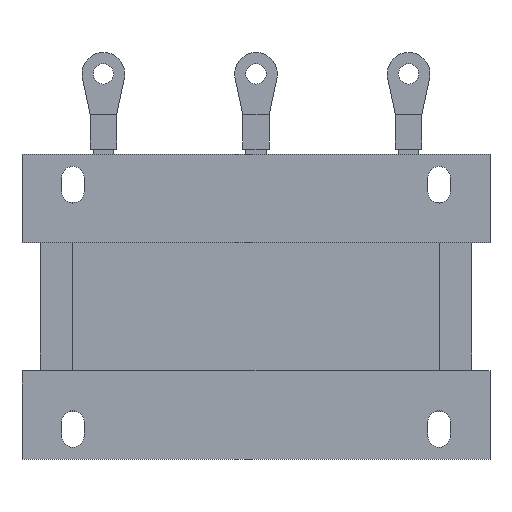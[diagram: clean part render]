
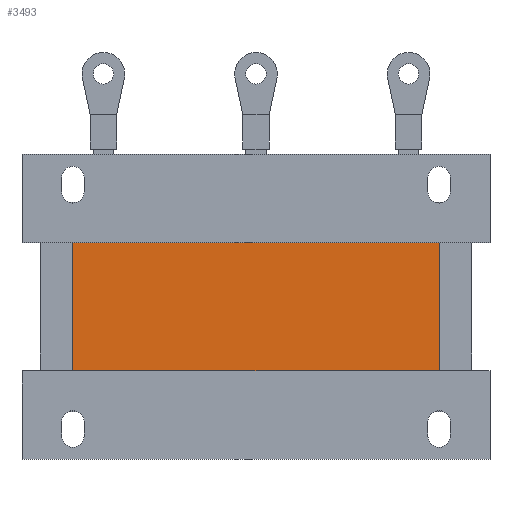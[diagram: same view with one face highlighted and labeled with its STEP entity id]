
A CAD part, front view. The second image highlights one B-rep face of the part: STEP entity #3493.
In plain terms, the highlighted planar face has unit normal (0, -1, 0).
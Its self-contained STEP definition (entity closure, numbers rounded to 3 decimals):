
#123=PLANE('',#3776);
#305=FACE_OUTER_BOUND('',#515,.T.);
#515=EDGE_LOOP('',(#2919,#2920,#2921,#2922));
#715=LINE('',#5093,#1149);
#740=LINE('',#5149,#1174);
#745=LINE('',#5160,#1179);
#871=LINE('',#5459,#1305);
#1149=VECTOR('',#4136,10.);
#1174=VECTOR('',#4183,10.);
#1179=VECTOR('',#4192,10.);
#1305=VECTOR('',#4444,10.);
#1643=VERTEX_POINT('',#5090);
#1644=VERTEX_POINT('',#5092);
#1663=VERTEX_POINT('',#5145);
#1664=VERTEX_POINT('',#5147);
#2003=EDGE_CURVE('',#1643,#1644,#715,.T.);
#2032=EDGE_CURVE('',#1664,#1663,#740,.T.);
#2037=EDGE_CURVE('',#1644,#1664,#745,.T.);
#2191=EDGE_CURVE('',#1663,#1643,#871,.T.);
#2919=ORIENTED_EDGE('',*,*,#2003,.F.);
#2920=ORIENTED_EDGE('',*,*,#2191,.F.);
#2921=ORIENTED_EDGE('',*,*,#2032,.F.);
#2922=ORIENTED_EDGE('',*,*,#2037,.F.);
#3493=ADVANCED_FACE('',(#305),#123,.F.);
#3776=AXIS2_PLACEMENT_3D('',#5460,#4445,#4446);
#4136=DIRECTION('',(1.,0.,0.));
#4183=DIRECTION('',(-1.,0.,0.));
#4192=DIRECTION('',(0.,0.,-1.));
#4444=DIRECTION('',(0.,0.,1.));
#4445=DIRECTION('center_axis',(0.,1.,0.));
#4446=DIRECTION('ref_axis',(0.,0.,1.));
#5090=CARTESIAN_POINT('',(-90.,2.,31.5));
#5092=CARTESIAN_POINT('',(90.,2.,31.5));
#5093=CARTESIAN_POINT('',(90.,2.,31.5));
#5145=CARTESIAN_POINT('',(-90.,2.,-31.5));
#5147=CARTESIAN_POINT('',(90.,2.,-31.5));
#5149=CARTESIAN_POINT('',(-90.,2.,-31.5));
#5160=CARTESIAN_POINT('',(90.,2.,15.75));
#5459=CARTESIAN_POINT('',(-90.,2.,-15.75));
#5460=CARTESIAN_POINT('Origin',(0.,2.,0.));
